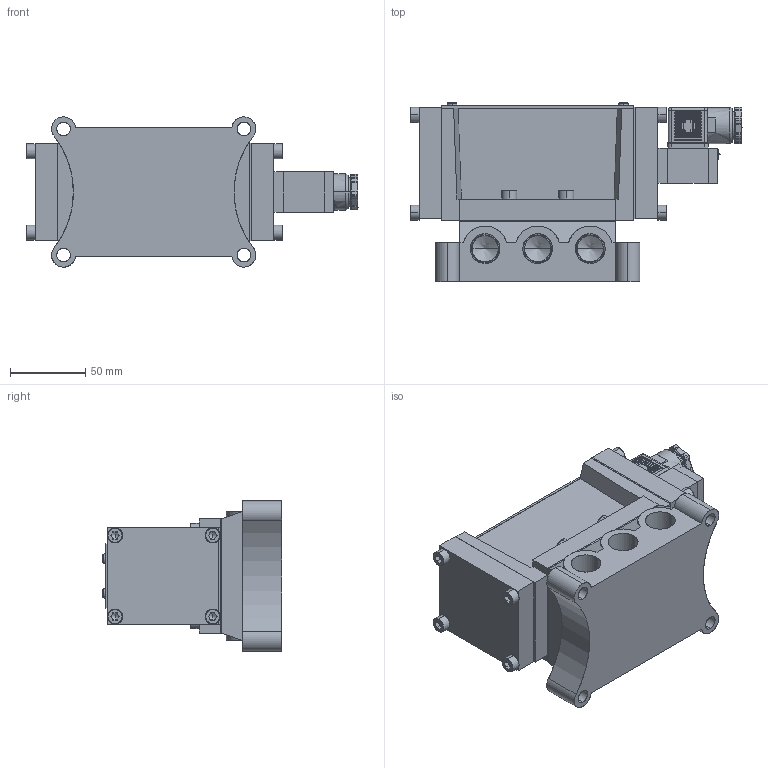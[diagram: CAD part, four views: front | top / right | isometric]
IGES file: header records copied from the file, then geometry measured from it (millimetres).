
Start section: SolidWorks IGES file using analytic representation for surfaces
Global section: file name: D:\Custom\3D繪製\PM\PM15\PMS2415#-04-#C#.IGS,1; native system: 5HSolidWorks 2014; preprocessor: SolidWorks 2014; author: Chieh_Lu; date: 151215.222446; units: millimetre
Bounding box: 221 x 119.55 x 100 mm (x, y, z)
Surface area: 190297.8 mm2 (no closed solid volume)
Topology: 0 solids, 0 shells, 1190 faces, 11523 edges, 11353 vertices
Faces by surface type: bspline 618, revolution 572
